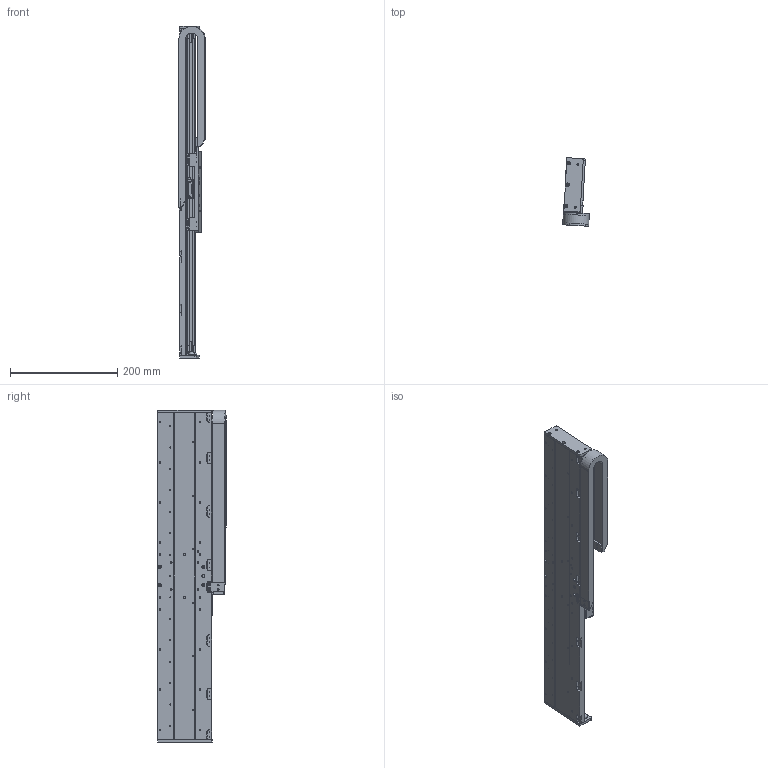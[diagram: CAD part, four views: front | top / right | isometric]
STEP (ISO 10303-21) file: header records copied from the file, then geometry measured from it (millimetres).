
FILE_DESCRIPTION(/* description */ (''),/* implementation_level */ '2;1');
FILE_NAME(/* name */ 'I:\FY15 Projects\MSR\MSR100\Web Step Models\mSR100L-450XLDXXXXXXCM13.stp',/* time_stamp */ '2015-02-18T13:27:00-05:00',/* author */ ('BF20108'),/* organization */ (''),/* preprocessor_version */ 'ST-DEVELOPER v15.2',/* originating_system */ 'Autodesk Inventor 2014',/* authorisation */ '');
FILE_SCHEMA (('AUTOMOTIVE_DESIGN { 1 0 10303 214 3 1 1 }'));
Products named in the file (17): 102-5710-11; 003-3562-43; 102-5702-10; ml18-120m-n; 102-5703-01; 102-5705-01; 002-3740-11; 003-3561; 003-5000; 102-5708; ML18-5E; 002-3740-long-carriage-assy; mx100-mcb; mx100-scb; e045-16-018-carrier-14; 002-3740-cbl-carr-lc-07; 002-3740
Bounding box: 49.76 x 127.67 x 620 mm (x, y, z)
Volume: 1042909.7 mm3; surface area: 487202.7 mm2
Topology: 26 solids, 27 shells, 3368 faces, 8991 edges, 5752 vertices
Faces by surface type: plane 1572, cylinder 1313, torus 240, cone 231, bspline 8, sphere 4
Full cylindrical faces by diameter (mm): 0.5 x8, 1 x4, 1.567 x119, 1.588 x2, 2.007 x18, 2.013 x19, 2.135 x4, 2.4 x82, 2.459 x24, 2.5 x20, 2.642 x4, 2.75 x1, 3 x31, 3.242 x10, 3.4 x36, 3.505 x4, 4 x4, 4.17 x2, 4.2 x83, 4.5 x18, 5 x9, 5.08 x2, 6 x40, 11.176 x4
Entity records: 56650 total; most frequent: CARTESIAN_POINT 10630, DIRECTION 9515, ORIENTED_EDGE 8646, EDGE_CURVE 4307, AXIS2_PLACEMENT_3D 3427, VERTEX_POINT 3094, EDGE_LOOP 2929, LINE 2661
